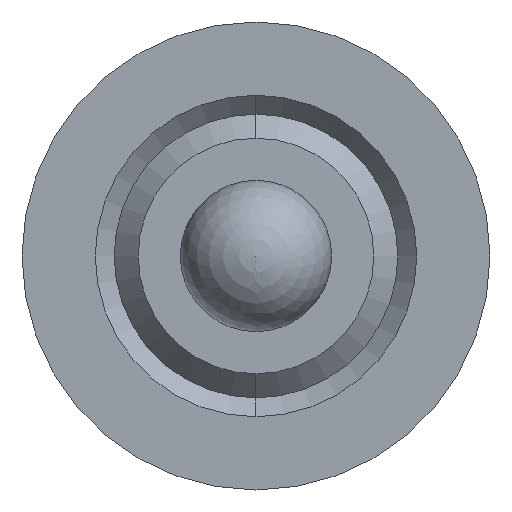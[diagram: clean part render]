
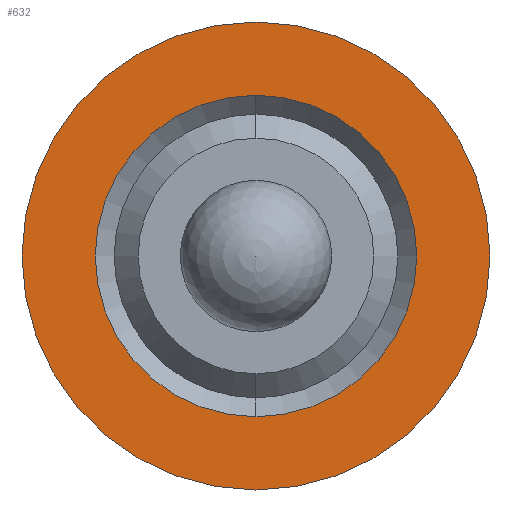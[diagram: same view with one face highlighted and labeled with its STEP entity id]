
A CAD part, left-side view. The second image highlights one B-rep face of the part: STEP entity #632.
In plain terms, the highlighted planar face has unit normal (-1, 0, 0).
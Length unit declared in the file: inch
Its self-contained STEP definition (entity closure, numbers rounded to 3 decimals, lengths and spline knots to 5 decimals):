
#3 = AXIS2_PLACEMENT_3D ( 'NONE', #136, #135, #676 ) ;
#18 = VERTEX_POINT ( 'NONE', #1236 ) ;
#42 = CIRCLE ( 'NONE', #3, 0.09744 ) ;
#44 = AXIS2_PLACEMENT_3D ( 'NONE', #861, #858, #856 ) ;
#67 = CARTESIAN_POINT ( 'NONE',  ( 0.34458, 0.86879, 1.21777 ) ) ;
#135 = DIRECTION ( 'NONE',  ( -1., 0., 0. ) ) ;
#136 = CARTESIAN_POINT ( 'NONE',  ( 0.34458, 0.77135, 1.21777 ) ) ;
#187 = CARTESIAN_POINT ( 'NONE',  ( 0.34458, 0.77135, 1.15084 ) ) ;
#194 = DIRECTION ( 'NONE',  ( 0., 1., 0. ) ) ;
#195 = DIRECTION ( 'NONE',  ( 1., 0., 0. ) ) ;
#196 = CARTESIAN_POINT ( 'NONE',  ( 0.34458, 0.77135, 1.21777 ) ) ;
#307 = CARTESIAN_POINT ( 'NONE',  ( 0.34458, 0.67391, 1.21777 ) ) ;
#319 = DIRECTION ( 'NONE',  ( 0., 1., 0. ) ) ;
#320 = DIRECTION ( 'NONE',  ( 1., 0., 0. ) ) ;
#325 = CARTESIAN_POINT ( 'NONE',  ( 0.34458, 0.77135, 1.21777 ) ) ;
#331 = VERTEX_POINT ( 'NONE', #187 ) ;
#383 = CIRCLE ( 'NONE', #1345, 0.06693 ) ;
#434 = DIRECTION ( 'NONE',  ( 0., -1., 0. ) ) ;
#436 = CARTESIAN_POINT ( 'NONE',  ( 0.34458, 0.77135, 1.21777 ) ) ;
#493 = ORIENTED_EDGE ( 'NONE', *, *, #1002, .T. ) ;
#571 = AXIS2_PLACEMENT_3D ( 'NONE', #325, #320, #319 ) ;
#579 = ORIENTED_EDGE ( 'NONE', *, *, #1288, .T. ) ;
#632 = ADVANCED_FACE ( 'NONE', ( #752, #1360 ), #666, .F. ) ;
#652 = EDGE_LOOP ( 'NONE', ( #1188, #579 ) ) ;
#666 = PLANE ( 'NONE',  #44 ) ;
#676 = DIRECTION ( 'NONE',  ( 0., -1., 0. ) ) ;
#689 = EDGE_LOOP ( 'NONE', ( #493, #1203 ) ) ;
#752 = FACE_BOUND ( 'NONE', #652, .T. ) ;
#856 = DIRECTION ( 'NONE',  ( 0., 1., 0. ) ) ;
#858 = DIRECTION ( 'NONE',  ( 1., 0., 0. ) ) ;
#861 = CARTESIAN_POINT ( 'NONE',  ( 0.34458, 0.86879, 1.21777 ) ) ;
#866 = CIRCLE ( 'NONE', #571, 0.06693 ) ;
#910 = AXIS2_PLACEMENT_3D ( 'NONE', #436, #1348, #434 ) ;
#1002 = EDGE_CURVE ( 'NONE', #1130, #1443, #1239, .T. ) ;
#1083 = EDGE_CURVE ( 'NONE', #18, #331, #866, .T. ) ;
#1130 = VERTEX_POINT ( 'NONE', #307 ) ;
#1188 = ORIENTED_EDGE ( 'NONE', *, *, #1083, .T. ) ;
#1203 = ORIENTED_EDGE ( 'NONE', *, *, #1327, .T. ) ;
#1236 = CARTESIAN_POINT ( 'NONE',  ( 0.34458, 0.77135, 1.2847 ) ) ;
#1239 = CIRCLE ( 'NONE', #910, 0.09744 ) ;
#1288 = EDGE_CURVE ( 'NONE', #331, #18, #383, .T. ) ;
#1327 = EDGE_CURVE ( 'NONE', #1443, #1130, #42, .T. ) ;
#1345 = AXIS2_PLACEMENT_3D ( 'NONE', #196, #195, #194 ) ;
#1348 = DIRECTION ( 'NONE',  ( -1., 0., 0. ) ) ;
#1360 = FACE_OUTER_BOUND ( 'NONE', #689, .T. ) ;
#1443 = VERTEX_POINT ( 'NONE', #67 ) ;
